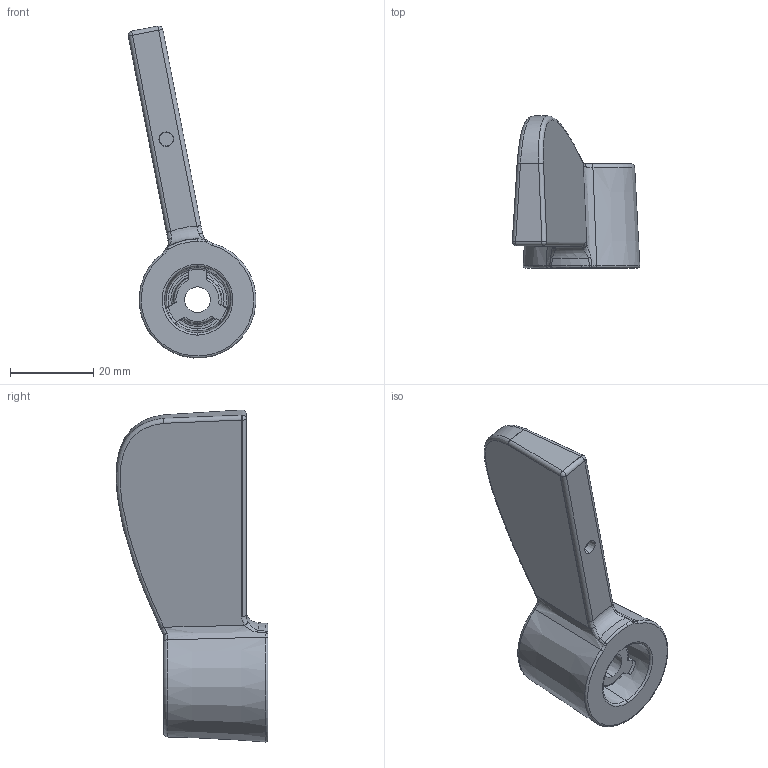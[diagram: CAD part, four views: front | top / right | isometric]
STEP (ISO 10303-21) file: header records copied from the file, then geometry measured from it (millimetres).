
FILE_DESCRIPTION (( 'STEP AP214' ), '1' );
FILE_NAME ('10032V000_Notlösehebel_Index_2.STEP', '2014-05-26T05:58:01', ( 'Admin' ), ( '' ), 'SwSTEP 2.0', 'SolidWorks 2014', '' );
FILE_SCHEMA (( 'AUTOMOTIVE_DESIGN' ));
Length unit declared in the file: millimetre
Products named in the file (1): 10032V000_Notlösehebel_Index_2
Bounding box: 30.53 x 36.37 x 79.57 mm (x, y, z)
Volume: 20860.9 mm3; surface area: 7888.6 mm2
Topology: 1 solids, 1 shells, 237 faces, 600 edges, 384 vertices
Faces by surface type: plane 90, bspline 88, torus 26, cone 14, cylinder 13, sphere 6
Entity records: 11805 total; most frequent: CARTESIAN_POINT 6673, ORIENTED_EDGE 1196, DIRECTION 808, EDGE_CURVE 598, VERTEX_POINT 384, AXIS2_PLACEMENT_3D 274, VECTOR 260, LINE 260
